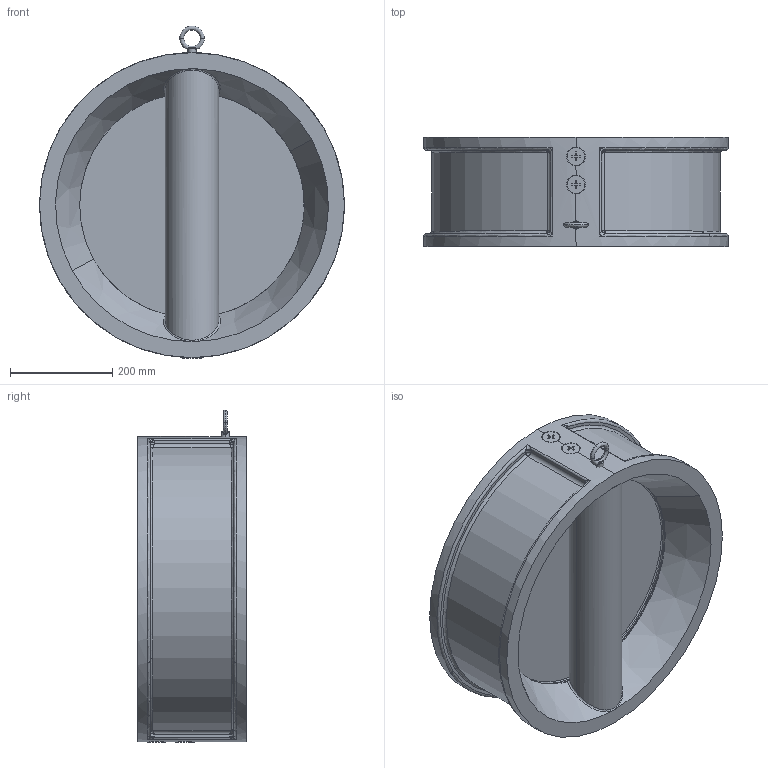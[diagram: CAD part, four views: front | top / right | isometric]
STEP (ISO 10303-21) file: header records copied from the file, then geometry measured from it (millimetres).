
FILE_DESCRIPTION (( 'STEP AP203' ), '1' );
FILE_NAME ('00.STEP', '2017-04-04T00:31:29', ( 'User' ), ( 'shendu' ), 'SwSTEP 2.0', 'SolidWorks 2015', '' );
FILE_SCHEMA (( 'CONFIG_CONTROL_DESIGN' ));
Length unit declared in the file: millimetre
Products named in the file (1): 00
Bounding box: 596 x 213 x 648.79 mm (x, y, z)
Volume: 19557490.7 mm3; surface area: 1835726.7 mm2
Topology: 17 solids, 17 shells, 474 faces, 1128 edges, 659 vertices
Faces by surface type: bspline 175, cylinder 158, plane 128, cone 13
Entity records: 122194 total; most frequent: CARTESIAN_POINT 112565, ORIENTED_EDGE 2202, DIRECTION 1607, EDGE_CURVE 1101, VERTEX_POINT 659, AXIS2_PLACEMENT_3D 595, EDGE_LOOP 506, FACE_OUTER_BOUND 474
